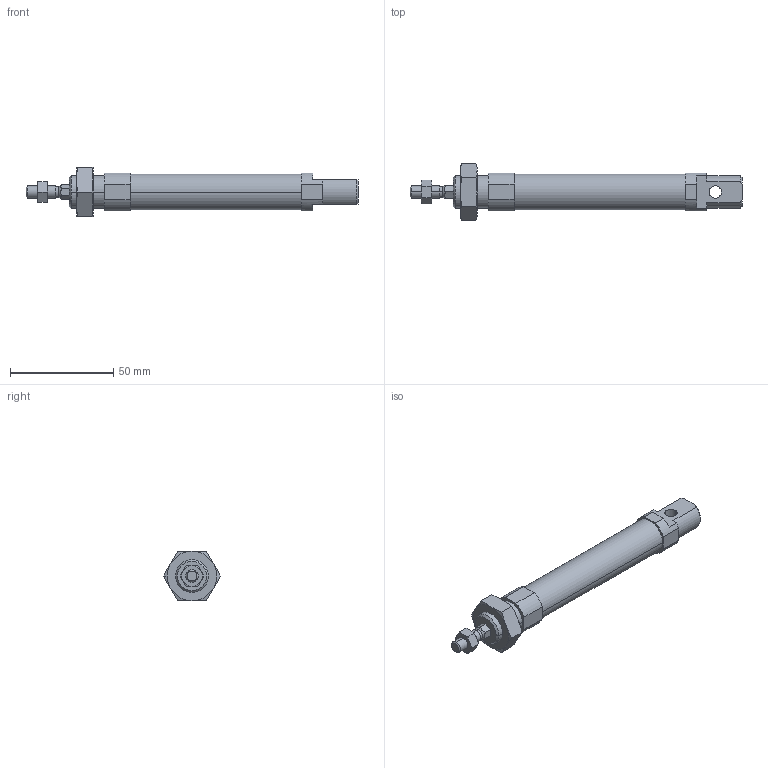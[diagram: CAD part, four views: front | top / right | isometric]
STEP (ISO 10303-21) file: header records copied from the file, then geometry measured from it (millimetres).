
FILE_DESCRIPTION (( 'STEP AP203' ), '1' );
FILE_NAME ('CSMK16-25.STEP', '2020-04-02T10:44:06', ( '' ), ( '' ), 'SwSTEP 2.0', 'SolidWorks 2019', '' );
FILE_SCHEMA (( 'CONFIG_CONTROL_DESIGN' ));
Length unit declared in the file: millimetre
Products named in the file (1): CSMK16-25
Bounding box: 161 x 27.71 x 24 mm (x, y, z)
Volume: 27062.7 mm3; surface area: 17039.5 mm2
Topology: 4 solids, 4 shells, 135 faces, 310 edges, 189 vertices
Faces by surface type: plane 53, cone 50, cylinder 32
Entity records: 4287 total; most frequent: CARTESIAN_POINT 1185, DIRECTION 636, ORIENTED_EDGE 616, EDGE_CURVE 308, AXIS2_PLACEMENT_3D 250, VERTEX_POINT 189, EDGE_LOOP 151, LINE 136
